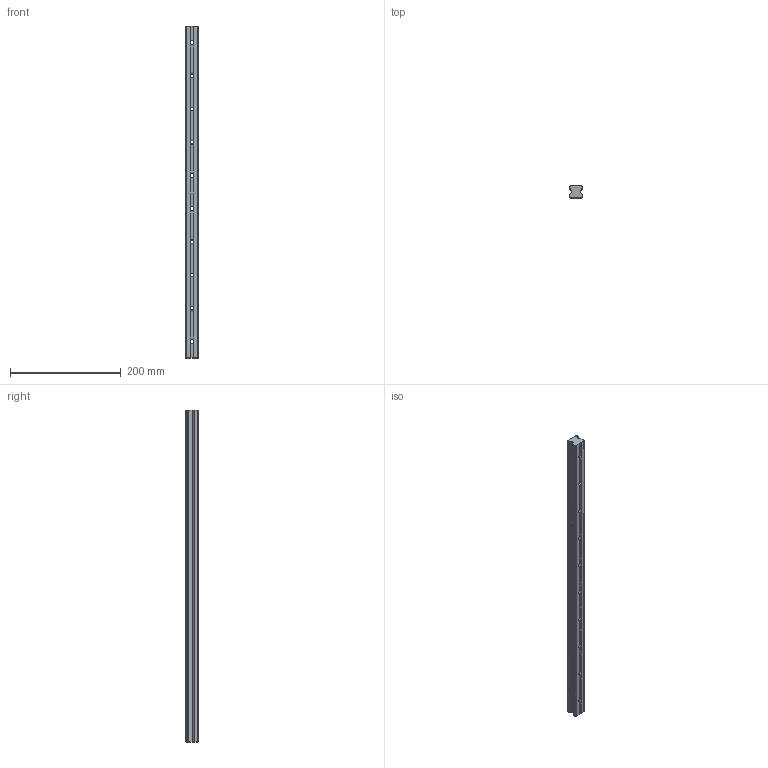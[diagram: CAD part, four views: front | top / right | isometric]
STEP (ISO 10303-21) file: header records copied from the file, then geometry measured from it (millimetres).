
FILE_DESCRIPTION (( 'STEP AP214' ), '1' );
FILE_NAME ('Pos.101 Führungsschiene Y-Achse und X-Achse (4x).STEP', '2017-03-12T09:57:07', ( 'C.Loibl@hotmail.com' ), ( '' ), 'SwSTEP 2.0', 'SolidWorks 2015', '' );
FILE_SCHEMA (( 'AUTOMOTIVE_DESIGN' ));
Length unit declared in the file: millimetre
Products named in the file (1): Pos.101 Führungsschiene Y-Achse und X-Achse (4x)
Bounding box: 23 x 22 x 600 mm (x, y, z)
Volume: 251077.6 mm3; surface area: 61469.1 mm2
Topology: 1 solids, 1 shells, 220 faces, 574 edges, 356 vertices
Faces by surface type: plane 96, cone 62, cylinder 62
Entity records: 6816 total; most frequent: CARTESIAN_POINT 1271, DIRECTION 1220, ORIENTED_EDGE 1148, EDGE_CURVE 574, AXIS2_PLACEMENT_3D 465, VERTEX_POINT 356, VECTOR 290, LINE 290
